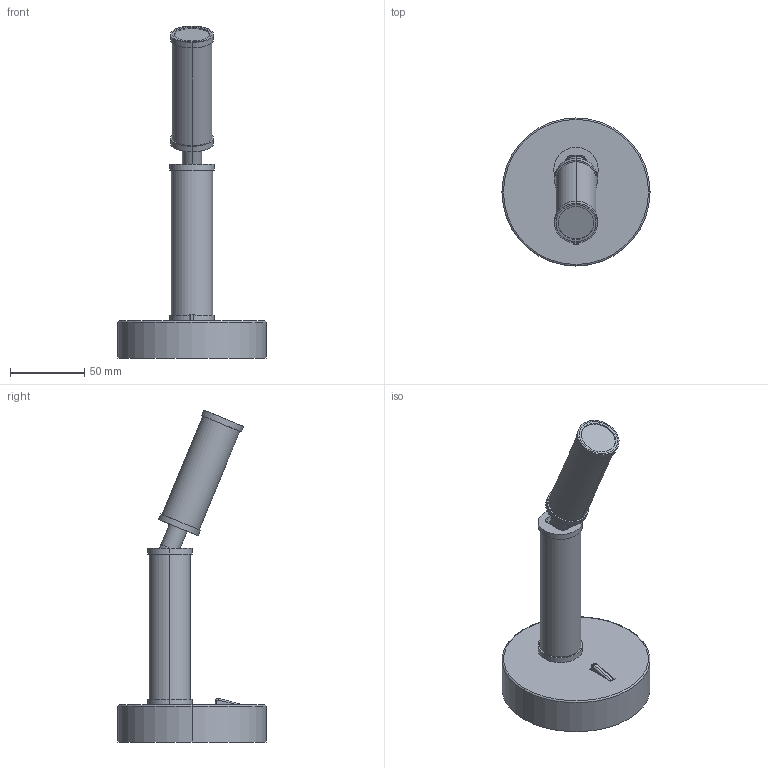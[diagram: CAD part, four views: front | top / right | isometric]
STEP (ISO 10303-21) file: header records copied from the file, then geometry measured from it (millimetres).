
FILE_DESCRIPTION (( 'STEP AP214' ), '1' );
FILE_NAME ('COCO_A1342.STEP', '2024-12-20T12:01:29', ( '' ), ( '' ), 'SwSTEP 2.0', 'SolidWorks 2018', '' );
FILE_SCHEMA (( 'AUTOMOTIVE_DESIGN' ));
Length unit declared in the file: millimetre
Products named in the file (1): COCO_A1342
Bounding box: 100 x 100 x 224.31 mm (x, y, z)
Volume: 310495.5 mm3; surface area: 49815.9 mm2
Topology: 10 solids, 10 shells, 80 faces, 161 edges, 104 vertices
Faces by surface type: cylinder 36, plane 34, torus 10
Entity records: 2294 total; most frequent: CARTESIAN_POINT 416, DIRECTION 403, ORIENTED_EDGE 322, AXIS2_PLACEMENT_3D 167, EDGE_CURVE 161, VERTEX_POINT 104, EDGE_LOOP 89, CIRCLE 86
